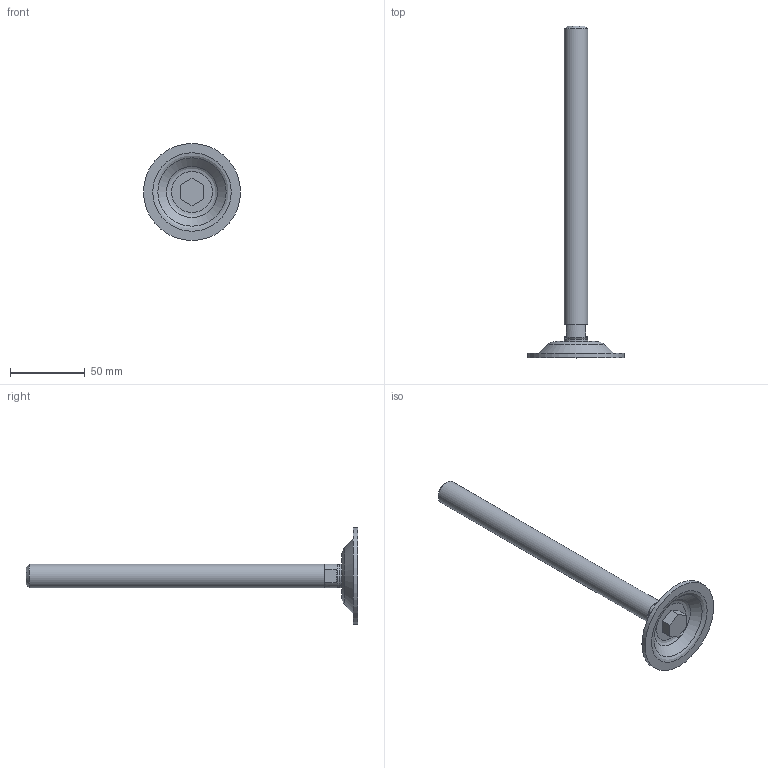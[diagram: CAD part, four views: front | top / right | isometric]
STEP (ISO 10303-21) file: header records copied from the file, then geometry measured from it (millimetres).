
FILE_DESCRIPTION(('STEP AP203'),'2;1');
FILE_NAME('15882.stp','2015-02-13T09:37:05',(''),(''),'2008.1.107','THINKDESIGN','');
FILE_SCHEMA(('CONFIG_CONTROL_DESIGN'));
Length unit declared in the file: millimetre
Bounding box: 65 x 222.5 x 65 mm (x, y, z)
Volume: 54490.1 mm3; surface area: 20432.4 mm2
Topology: 5 solids, 5 shells, 35 faces, 83 edges, 61 vertices
Faces by surface type: plane 22, bspline 8, cylinder 5
Full cylindrical faces by diameter (mm): 12 x1, 16 x3, 65 x1
Entity records: 1721 total; most frequent: CARTESIAN_POINT 691, DIRECTION 185, ORIENTED_EDGE 164, EDGE_CURVE 82, AXIS2_PLACEMENT_3D 75, VERTEX_POINT 59, CIRCLE 48, EDGE_LOOP 39
